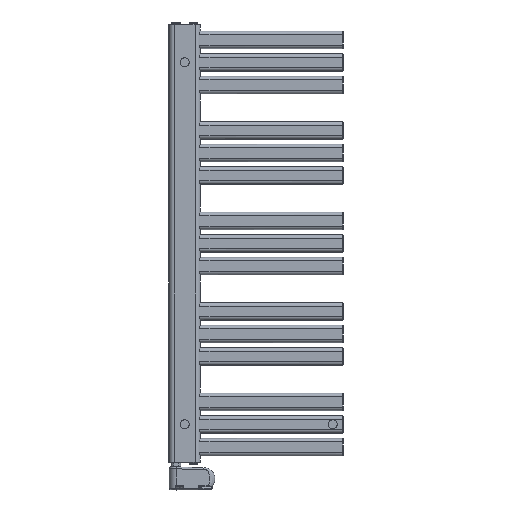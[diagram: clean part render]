
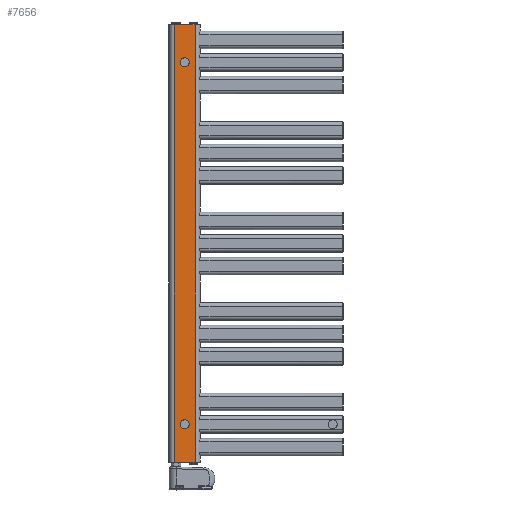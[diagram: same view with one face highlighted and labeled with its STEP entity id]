
A CAD part, top view. The second image highlights one B-rep face of the part: STEP entity #7656.
In plain terms, the highlighted planar face has unit normal (0, 0, 1).
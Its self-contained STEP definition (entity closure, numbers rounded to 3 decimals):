
#4078=DIRECTION('',(0.,1.,0.));
#4079=VECTOR('',#4078,1256.4);
#4080=CARTESIAN_POINT('',(75.,2.,15.));
#4081=LINE('',#4080,#4079);
#4457=DIRECTION('',(1.,0.,0.));
#4458=VECTOR('',#4457,60.);
#4459=CARTESIAN_POINT('',(15.,1258.4,15.));
#4460=LINE('',#4459,#4458);
#4464=DIRECTION('',(-1.,0.,0.));
#4465=VECTOR('',#4464,60.);
#4466=CARTESIAN_POINT('',(75.,2.,15.));
#4467=LINE('',#4466,#4465);
#4471=DIRECTION('',(0.,1.,0.));
#4472=VECTOR('',#4471,1256.4);
#4473=CARTESIAN_POINT('',(15.,2.,15.));
#4474=LINE('',#4473,#4472);
#4478=CARTESIAN_POINT('',(45.,1150.2,15.));
#4479=DIRECTION('',(0.,0.,1.));
#4480=DIRECTION('',(1.,0.,0.));
#4481=AXIS2_PLACEMENT_3D('',#4478,#4479,#4480);
#4486=CARTESIAN_POINT('',(45.,1150.2,15.));
#4487=DIRECTION('',(0.,0.,1.));
#4488=DIRECTION('',(-1.,0.,0.));
#4489=AXIS2_PLACEMENT_3D('',#4486,#4487,#4488);
#4494=CARTESIAN_POINT('',(45.,110.2,15.));
#4495=DIRECTION('',(0.,0.,1.));
#4496=DIRECTION('',(1.,0.,0.));
#4497=AXIS2_PLACEMENT_3D('',#4494,#4495,#4496);
#4502=CARTESIAN_POINT('',(45.,110.2,15.));
#4503=DIRECTION('',(0.,0.,1.));
#4504=DIRECTION('',(-1.,0.,0.));
#4505=AXIS2_PLACEMENT_3D('',#4502,#4503,#4504);
#6488=CARTESIAN_POINT('',(15.,1258.4,15.));
#6489=VERTEX_POINT('',#6488);
#6492=CARTESIAN_POINT('',(75.,1258.4,15.));
#6493=VERTEX_POINT('',#6492);
#6498=CARTESIAN_POINT('',(75.,2.,15.));
#6499=CARTESIAN_POINT('',(15.,2.,15.));
#6500=VERTEX_POINT('',#6498);
#6501=VERTEX_POINT('',#6499);
#6550=CARTESIAN_POINT('',(54.75,1150.2,15.));
#6551=CARTESIAN_POINT('',(35.25,1150.2,15.));
#6552=VERTEX_POINT('',#6550);
#6553=VERTEX_POINT('',#6551);
#6554=CARTESIAN_POINT('',(54.75,110.2,15.));
#6555=CARTESIAN_POINT('',(35.25,110.2,15.));
#6556=VERTEX_POINT('',#6554);
#6557=VERTEX_POINT('',#6555);
#7632=CARTESIAN_POINT('',(15.,0.,15.));
#7633=DIRECTION('',(0.,0.,1.));
#7634=DIRECTION('',(1.,0.,0.));
#7635=AXIS2_PLACEMENT_3D('',#7632,#7633,#7634);
#7636=PLANE('',#7635);
#7638=ORIENTED_EDGE('',*,*,#7637,.T.);
#7639=ORIENTED_EDGE('',*,*,#7116,.F.);
#7641=ORIENTED_EDGE('',*,*,#7640,.T.);
#7643=ORIENTED_EDGE('',*,*,#7642,.T.);
#7644=EDGE_LOOP('',(#7638,#7639,#7641,#7643));
#7645=FACE_OUTER_BOUND('',#7644,.F.);
#7646=ORIENTED_EDGE('',*,*,#7612,.T.);
#7647=ORIENTED_EDGE('',*,*,#7626,.T.);
#7648=EDGE_LOOP('',(#7646,#7647));
#7649=FACE_BOUND('',#7648,.F.);
#7651=ORIENTED_EDGE('',*,*,#7650,.T.);
#7653=ORIENTED_EDGE('',*,*,#7652,.T.);
#7654=EDGE_LOOP('',(#7651,#7653));
#7655=FACE_BOUND('',#7654,.F.);
#4482=CIRCLE('',#4481,9.75);
#4490=CIRCLE('',#4489,9.75);
#4498=CIRCLE('',#4497,9.75);
#4506=CIRCLE('',#4505,9.75);
#7116=EDGE_CURVE('',#6500,#6493,#4081,.T.);
#7612=EDGE_CURVE('',#6552,#6553,#4482,.T.);
#7626=EDGE_CURVE('',#6553,#6552,#4490,.T.);
#7637=EDGE_CURVE('',#6489,#6493,#4460,.T.);
#7640=EDGE_CURVE('',#6500,#6501,#4467,.T.);
#7642=EDGE_CURVE('',#6501,#6489,#4474,.T.);
#7650=EDGE_CURVE('',#6556,#6557,#4498,.T.);
#7652=EDGE_CURVE('',#6557,#6556,#4506,.T.);
#7656=ADVANCED_FACE('',(#7645,#7649,#7655),#7636,.T.);
